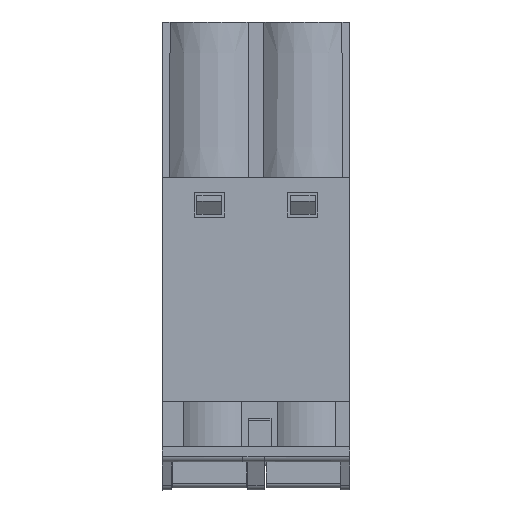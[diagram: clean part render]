
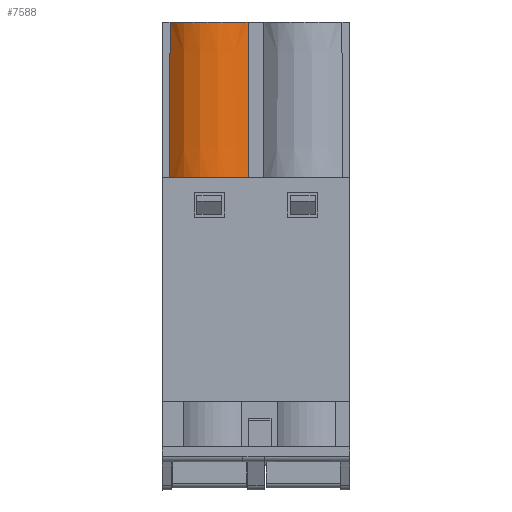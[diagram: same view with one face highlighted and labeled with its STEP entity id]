
A CAD part, left-side view. The second image highlights one B-rep face of the part: STEP entity #7588.
In plain terms, the highlighted conical face has half-angle 0.3 degrees and reference radius 2.856 mm.
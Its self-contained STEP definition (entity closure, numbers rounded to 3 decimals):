
#2375 = PLANE('',#2376);
#2376 = AXIS2_PLACEMENT_3D('',#2377,#2378,#2379);
#2377 = CARTESIAN_POINT('',(3.5,10.3,-8.35));
#2378 = DIRECTION('',(0.,-0.,1.));
#2379 = DIRECTION('',(1.,0.,0.));
#2403 = PLANE('',#2404);
#2404 = AXIS2_PLACEMENT_3D('',#2405,#2406,#2407);
#2405 = CARTESIAN_POINT('',(6.522,15.041,
    -4.175));
#2406 = DIRECTION('',(-1.,0.,0.005));
#2407 = DIRECTION('',(0.,1.,0.));
#2431 = PLANE('',#2432);
#2432 = AXIS2_PLACEMENT_3D('',#2433,#2434,#2435);
#2433 = CARTESIAN_POINT('',(8.522,10.3,0.));
#2434 = DIRECTION('',(-0.,0.,1.));
#2435 = DIRECTION('',(1.,0.,0.));
#6147 = VERTEX_POINT('',#6148);
#6148 = CARTESIAN_POINT('',(6.5,14.9,-8.35));
#6169 = EDGE_CURVE('',#6147,#6170,#6172,.T.);
#6170 = VERTEX_POINT('',#6171);
#6171 = CARTESIAN_POINT('',(6.544,14.881,
    0.));
#6172 = SURFACE_CURVE('',#6173,(#6180,#6190),.PCURVE_S1.);
#6173 = B_SPLINE_CURVE_WITH_KNOTS('',3,(#6174,#6175,#6176,#6177,#6178,
    #6179),.UNSPECIFIED.,.F.,.F.,(4,1,1,4),(0.,0.333,
    0.667,1.),.UNSPECIFIED.);
#6174 = CARTESIAN_POINT('',(6.5,14.9,-8.35));
#6175 = CARTESIAN_POINT('',(6.505,14.898,
    -7.422));
#6176 = CARTESIAN_POINT('',(6.515,14.894,
    -5.567));
#6177 = CARTESIAN_POINT('',(6.529,14.887,
    -2.784));
#6178 = CARTESIAN_POINT('',(6.539,14.883,-0.928
    ));
#6179 = CARTESIAN_POINT('',(6.544,14.881,
    0.));
#6180 = PCURVE('',#2403,#6181);
#6181 = DEFINITIONAL_REPRESENTATION('',(#6182),#6189);
#6182 = B_SPLINE_CURVE_WITH_KNOTS('',3,(#6183,#6184,#6185,#6186,#6187,
    #6188),.UNSPECIFIED.,.F.,.F.,(4,1,1,4),(0.,0.333,
    0.667,1.),.UNSPECIFIED.);
#6183 = CARTESIAN_POINT('',(-0.141,4.175));
#6184 = CARTESIAN_POINT('',(-0.143,3.247));
#6185 = CARTESIAN_POINT('',(-0.147,1.392));
#6186 = CARTESIAN_POINT('',(-0.153,-1.391));
#6187 = CARTESIAN_POINT('',(-0.157,-3.247));
#6188 = CARTESIAN_POINT('',(-0.159,-4.175));
#6189 = ( GEOMETRIC_REPRESENTATION_CONTEXT(2) 
PARAMETRIC_REPRESENTATION_CONTEXT() REPRESENTATION_CONTEXT('2D SPACE',''
  ) );
#6190 = PCURVE('',#6191,#6196);
#6191 = CONICAL_SURFACE('',#6192,2.856,0.005);
#6192 = AXIS2_PLACEMENT_3D('',#6193,#6194,#6195);
#6193 = CARTESIAN_POINT('',(8.5,12.8,0.146)
  );
#6194 = DIRECTION('',(0.,0.,-1.));
#6195 = DIRECTION('',(-0.685,0.729,0.)
  );
#6196 = DEFINITIONAL_REPRESENTATION('',(#6197),#6200);
#6197 = B_SPLINE_CURVE_WITH_KNOTS('',1,(#6198,#6199),.UNSPECIFIED.,.F.,
  .F.,(2,2),(0.,1.),.PIECEWISE_BEZIER_KNOTS.);
#6198 = CARTESIAN_POINT('',(6.277,8.496));
#6199 = CARTESIAN_POINT('',(6.283,0.146));
#6200 = ( GEOMETRIC_REPRESENTATION_CONTEXT(2) 
PARAMETRIC_REPRESENTATION_CONTEXT() REPRESENTATION_CONTEXT('2D SPACE',''
  ) );
#7588 = ADVANCED_FACE('',(#7589),#6191,.T.);
#7589 = FACE_BOUND('',#7590,.T.);
#7590 = EDGE_LOOP('',(#7591,#7619,#7652,#7678));
#7591 = ORIENTED_EDGE('',*,*,#7592,.F.);
#7592 = EDGE_CURVE('',#7593,#6147,#7595,.T.);
#7593 = VERTEX_POINT('',#7594);
#7594 = CARTESIAN_POINT('',(6.5,10.7,
    -8.35));
#7595 = SURFACE_CURVE('',#7596,(#7601,#7608),.PCURVE_S1.);
#7596 = CIRCLE('',#7597,2.9);
#7597 = AXIS2_PLACEMENT_3D('',#7598,#7599,#7600);
#7598 = CARTESIAN_POINT('',(8.5,12.8,
    -8.35));
#7599 = DIRECTION('',(0.,0.,-1.));
#7600 = DIRECTION('',(-0.69,-0.724,-0.));
#7601 = PCURVE('',#6191,#7602);
#7602 = DEFINITIONAL_REPRESENTATION('',(#7603),#7607);
#7603 = LINE('',#7604,#7605);
#7604 = CARTESIAN_POINT('',(4.657,8.496));
#7605 = VECTOR('',#7606,1.);
#7606 = DIRECTION('',(1.,0.));
#7607 = ( GEOMETRIC_REPRESENTATION_CONTEXT(2) 
PARAMETRIC_REPRESENTATION_CONTEXT() REPRESENTATION_CONTEXT('2D SPACE',''
  ) );
#7608 = PCURVE('',#2375,#7609);
#7609 = DEFINITIONAL_REPRESENTATION('',(#7610),#7618);
#7610 = ( BOUNDED_CURVE() B_SPLINE_CURVE(2,(#7611,#7612,#7613,#7614,
#7615,#7616,#7617),.UNSPECIFIED.,.T.,.F.) B_SPLINE_CURVE_WITH_KNOTS((1,2
    ,2,2,2,1),(-2.094,0.,2.094,4.189,
6.283,8.378),.UNSPECIFIED.) CURVE() 
GEOMETRIC_REPRESENTATION_ITEM() RATIONAL_B_SPLINE_CURVE((1.,0.5,1.,0.5,
1.,0.5,1.)) REPRESENTATION_ITEM('') );
#7611 = CARTESIAN_POINT('',(3.,0.4));
#7612 = CARTESIAN_POINT('',(-0.637,3.864));
#7613 = CARTESIAN_POINT('',(4.181,5.282));
#7614 = CARTESIAN_POINT('',(9.,6.7));
#7615 = CARTESIAN_POINT('',(7.819,1.818));
#7616 = CARTESIAN_POINT('',(6.637,-3.064));
#7617 = CARTESIAN_POINT('',(3.,0.4));
#7618 = ( GEOMETRIC_REPRESENTATION_CONTEXT(2) 
PARAMETRIC_REPRESENTATION_CONTEXT() REPRESENTATION_CONTEXT('2D SPACE',''
  ) );
#7619 = ORIENTED_EDGE('',*,*,#7620,.T.);
#7620 = EDGE_CURVE('',#7593,#7621,#7623,.T.);
#7621 = VERTEX_POINT('',#7622);
#7622 = CARTESIAN_POINT('',(6.544,10.719,
    0.));
#7623 = SURFACE_CURVE('',#7624,(#7631,#7637),.PCURVE_S1.);
#7624 = B_SPLINE_CURVE_WITH_KNOTS('',3,(#7625,#7626,#7627,#7628,#7629,
    #7630),.UNSPECIFIED.,.F.,.F.,(4,1,1,4),(0.,0.333,
    0.667,1.),.UNSPECIFIED.);
#7625 = CARTESIAN_POINT('',(6.5,10.7,
    -8.35));
#7626 = CARTESIAN_POINT('',(6.505,10.702,
    -7.422));
#7627 = CARTESIAN_POINT('',(6.515,10.706,
    -5.567));
#7628 = CARTESIAN_POINT('',(6.529,10.713,
    -2.784));
#7629 = CARTESIAN_POINT('',(6.539,10.717,-0.928
    ));
#7630 = CARTESIAN_POINT('',(6.544,10.719,
    0.));
#7631 = PCURVE('',#6191,#7632);
#7632 = DEFINITIONAL_REPRESENTATION('',(#7633),#7636);
#7633 = B_SPLINE_CURVE_WITH_KNOTS('',1,(#7634,#7635),.UNSPECIFIED.,.F.,
  .F.,(2,2),(0.,1.),.PIECEWISE_BEZIER_KNOTS.);
#7634 = CARTESIAN_POINT('',(4.657,8.496));
#7635 = CARTESIAN_POINT('',(4.651,0.146));
#7636 = ( GEOMETRIC_REPRESENTATION_CONTEXT(2) 
PARAMETRIC_REPRESENTATION_CONTEXT() REPRESENTATION_CONTEXT('2D SPACE',''
  ) );
#7637 = PCURVE('',#7638,#7643);
#7638 = PLANE('',#7639);
#7639 = AXIS2_PLACEMENT_3D('',#7640,#7641,#7642);
#7640 = CARTESIAN_POINT('',(6.522,10.3,
    -4.175));
#7641 = DIRECTION('',(-1.,0.,
    0.005));
#7642 = DIRECTION('',(0.,1.,0.));
#7643 = DEFINITIONAL_REPRESENTATION('',(#7644),#7651);
#7644 = B_SPLINE_CURVE_WITH_KNOTS('',3,(#7645,#7646,#7647,#7648,#7649,
    #7650),.UNSPECIFIED.,.F.,.F.,(4,1,1,4),(0.,0.333,
    0.667,1.),.UNSPECIFIED.);
#7645 = CARTESIAN_POINT('',(0.4,4.175));
#7646 = CARTESIAN_POINT('',(0.402,3.247));
#7647 = CARTESIAN_POINT('',(0.406,1.392));
#7648 = CARTESIAN_POINT('',(0.413,-1.391));
#7649 = CARTESIAN_POINT('',(0.417,-3.247));
#7650 = CARTESIAN_POINT('',(0.419,-4.175));
#7651 = ( GEOMETRIC_REPRESENTATION_CONTEXT(2) 
PARAMETRIC_REPRESENTATION_CONTEXT() REPRESENTATION_CONTEXT('2D SPACE',''
  ) );
#7652 = ORIENTED_EDGE('',*,*,#7653,.T.);
#7653 = EDGE_CURVE('',#7621,#6170,#7654,.T.);
#7654 = SURFACE_CURVE('',#7655,(#7660,#7667),.PCURVE_S1.);
#7655 = CIRCLE('',#7656,2.856);
#7656 = AXIS2_PLACEMENT_3D('',#7657,#7658,#7659);
#7657 = CARTESIAN_POINT('',(8.5,12.8,
    0.));
#7658 = DIRECTION('',(0.,0.,-1.));
#7659 = DIRECTION('',(-0.685,-0.729,0.
    ));
#7660 = PCURVE('',#6191,#7661);
#7661 = DEFINITIONAL_REPRESENTATION('',(#7662),#7666);
#7662 = LINE('',#7663,#7664);
#7663 = CARTESIAN_POINT('',(4.651,0.146));
#7664 = VECTOR('',#7665,1.);
#7665 = DIRECTION('',(1.,0.));
#7666 = ( GEOMETRIC_REPRESENTATION_CONTEXT(2) 
PARAMETRIC_REPRESENTATION_CONTEXT() REPRESENTATION_CONTEXT('2D SPACE',''
  ) );
#7667 = PCURVE('',#2431,#7668);
#7668 = DEFINITIONAL_REPRESENTATION('',(#7669),#7677);
#7669 = ( BOUNDED_CURVE() B_SPLINE_CURVE(2,(#7670,#7671,#7672,#7673,
#7674,#7675,#7676),.UNSPECIFIED.,.T.,.F.) B_SPLINE_CURVE_WITH_KNOTS((1,2
    ,2,2,2,1),(-2.094,0.,2.094,4.189,
6.283,8.378),.UNSPECIFIED.) CURVE() 
GEOMETRIC_REPRESENTATION_ITEM() RATIONAL_B_SPLINE_CURVE((1.,0.5,1.,0.5,
1.,0.5,1.)) REPRESENTATION_ITEM('') );
#7670 = CARTESIAN_POINT('',(-1.978,0.419));
#7671 = CARTESIAN_POINT('',(-5.583,3.807));
#7672 = CARTESIAN_POINT('',(-0.846,5.235));
#7673 = CARTESIAN_POINT('',(3.891,6.662));
#7674 = CARTESIAN_POINT('',(2.759,1.846));
#7675 = CARTESIAN_POINT('',(1.627,-2.97));
#7676 = CARTESIAN_POINT('',(-1.978,0.419));
#7677 = ( GEOMETRIC_REPRESENTATION_CONTEXT(2) 
PARAMETRIC_REPRESENTATION_CONTEXT() REPRESENTATION_CONTEXT('2D SPACE',''
  ) );
#7678 = ORIENTED_EDGE('',*,*,#6169,.F.);
